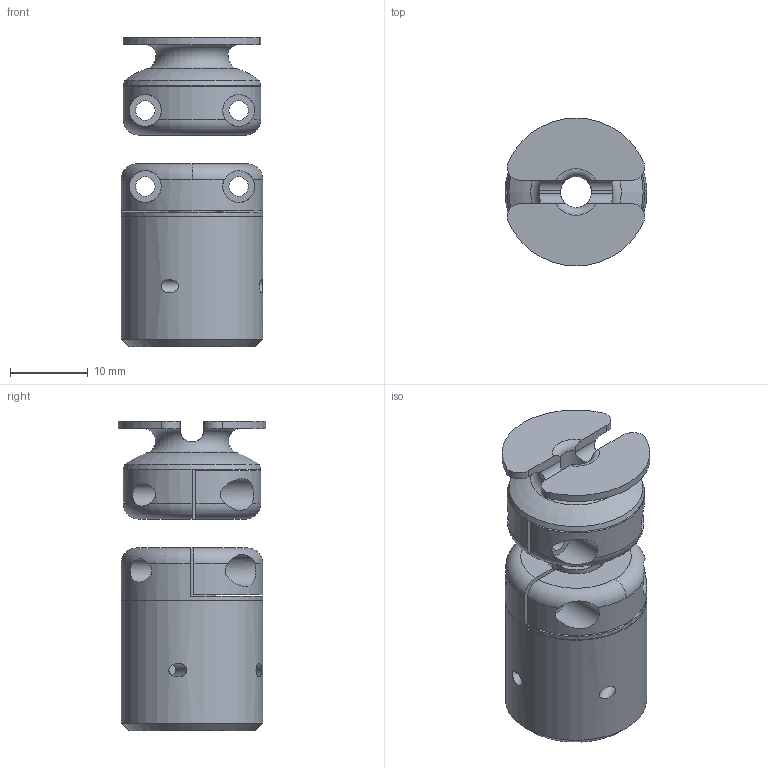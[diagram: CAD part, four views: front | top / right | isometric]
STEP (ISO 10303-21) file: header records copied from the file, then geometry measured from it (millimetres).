
FILE_DESCRIPTION(('HOOPS Exchange Step'),'2;1');
FILE_NAME('/private/var/mobile/Containers/Data/Application/3D331496-78D7-4D8A-96EF-C26D196FB948/tmp/export/temp_export','2026-10-04T14:03:31-05:00',('mobile'),('Shapr3D Limited'),'HOOPS Exchange 2026.3','Shapr3D','Authorized');
FILE_SCHEMA( ('AP242_MANAGED_MODEL_BASED_3D_ENGINEERING_MIM_LF {1 0 10303 442 1 1 4}') );
Length unit declared in the file: millimetre
Products named in the file (13): CONN-SMD_A1257WV-S-4P~CONN-SMD_GH1.25-LS-4P~PMP3; CN1~CONN-SMD_A1257WV-S-4P~CONN-SMD_GH1.25-LS-4P~ElXn; 3D_PCB4_2026-08-04.step; Connector.step; M16 Stud.STEP; M16.STEP; M14.STEP; 2022N205_Mil. Spec. Compression Springs.STEP; Spring Mount; Back mag spring term.step; Back; Flexy .step; root
Assembly tree (12 placements, depth 5):
  root
    Connector.step
      3D_PCB4_2026-08-04.step
        CN1~CONN-SMD_A1257WV-S-4P~CONN-SMD_GH1.25-LS-4P~ElXn
          CONN-SMD_A1257WV-S-4P~CONN-SMD_GH1.25-LS-4P~PMP3
    M16 Stud.STEP
    M16.STEP
    M14.STEP
    2022N205_Mil. Spec. Compression Springs.STEP
    Flexy .step
      Back
        Back mag spring term.step
          Spring Mount
Bounding box: 18.2 x 19 x 39.79 mm (x, y, z)
Volume: 5379.2 mm3; surface area: 6530.3 mm2
Topology: 5 solids, 5 shells, 120 faces, 366 edges, 256 vertices
Faces by surface type: cylinder 53, plane 40, torus 9, cone 8, bspline 6, extrusion 4
Full cylindrical faces by diameter (mm): 1.75 x4, 2.5 x4, 3 x4, 4 x2, 4.1 x4, 6.083 x2, 7.81 x2, 13 x1, 14 x3, 15.6 x3, 18.195 x1, 18.2 x1
Entity records: 14826 total; most frequent: CARTESIAN_POINT 11290, ORIENTED_EDGE 732, DIRECTION 652, EDGE_CURVE 366, AXIS2_PLACEMENT_3D 271, VERTEX_POINT 256, EDGE_LOOP 150, FACE_BOUND 150
